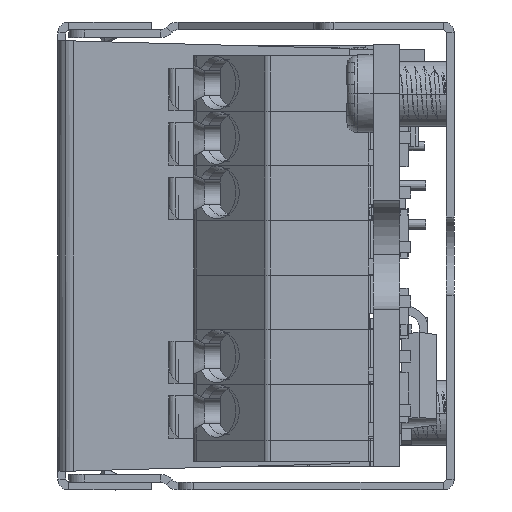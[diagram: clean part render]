
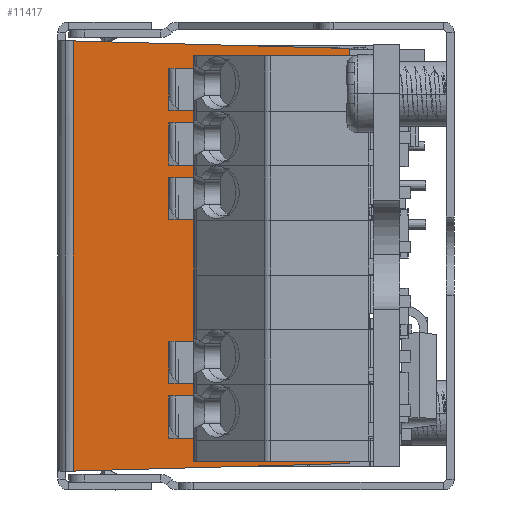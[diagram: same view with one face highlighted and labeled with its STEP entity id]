
A CAD part, left-side view. The second image highlights one B-rep face of the part: STEP entity #11417.
In plain terms, the highlighted planar face has unit normal (-1, 0, 0).
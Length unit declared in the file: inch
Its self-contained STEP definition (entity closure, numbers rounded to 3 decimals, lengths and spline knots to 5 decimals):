
#4770=DIRECTION('',(0.,0.,-1.));
#4771=VECTOR('',#4770,1.08553);
#4772=CARTESIAN_POINT('',(-6.43701,-0.01969,
0.54277));
#4773=LINE('',#4772,#4771);
#4777=CARTESIAN_POINT('',(-6.43701,-0.01969,
-0.54277));
#4812=DIRECTION('',(0.,-1.,-0.027));
#4813=VECTOR('',#4812,0.69711);
#4814=CARTESIAN_POINT('',(-6.43701,-0.01969,
0.54277));
#4815=LINE('',#4814,#4813);
#4819=DIRECTION('',(0.,0.,-1.));
#4820=VECTOR('',#4819,1.04724);
#4821=CARTESIAN_POINT('',(-6.43701,-0.71654,
0.52362));
#4822=LINE('',#4821,#4820);
#4826=DIRECTION('',(0.,1.,-0.027));
#4827=VECTOR('',#4826,0.69711);
#4828=CARTESIAN_POINT('',(-6.43701,-0.71654,
-0.52362));
#4829=LINE('',#4828,#4827);
#10566=VERTEX_POINT('',#4777);
#10569=CARTESIAN_POINT('',(-6.43701,-0.01969,
0.54277));
#10570=VERTEX_POINT('',#10569);
#10571=CARTESIAN_POINT('',(-6.43701,-0.71654,
0.52362));
#10572=VERTEX_POINT('',#10571);
#10573=CARTESIAN_POINT('',(-6.43701,-0.71654,
-0.52362));
#10574=VERTEX_POINT('',#10573);
#11403=CARTESIAN_POINT('',(-6.43701,0.01969,
0.29546));
#11404=DIRECTION('',(1.,0.,0.));
#11405=DIRECTION('',(0.,0.,1.));
#11406=AXIS2_PLACEMENT_3D('',#11403,#11404,#11405);
#11407=PLANE('',#11406);
#11408=ORIENTED_EDGE('',*,*,#11394,.F.);
#11410=ORIENTED_EDGE('',*,*,#11409,.T.);
#11412=ORIENTED_EDGE('',*,*,#11411,.T.);
#11414=ORIENTED_EDGE('',*,*,#11413,.T.);
#11415=EDGE_LOOP('',(#11408,#11410,#11412,#11414));
#11416=FACE_OUTER_BOUND('',#11415,.F.);
#11417=ADVANCED_FACE('',(#11416),#11407,.F.);
#11394=EDGE_CURVE('',#10570,#10566,#4773,.T.);
#11409=EDGE_CURVE('',#10570,#10572,#4815,.T.);
#11411=EDGE_CURVE('',#10572,#10574,#4822,.T.);
#11413=EDGE_CURVE('',#10574,#10566,#4829,.T.);
